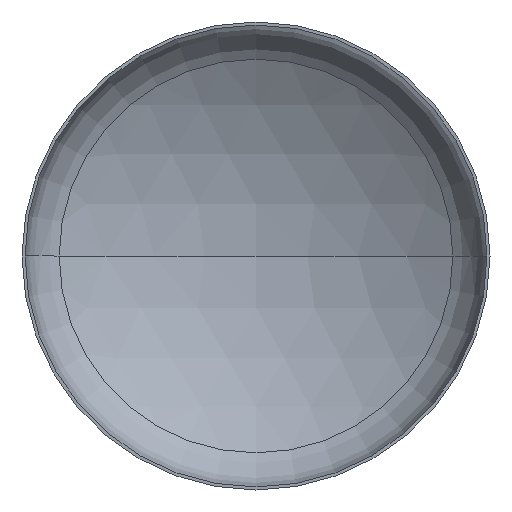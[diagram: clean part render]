
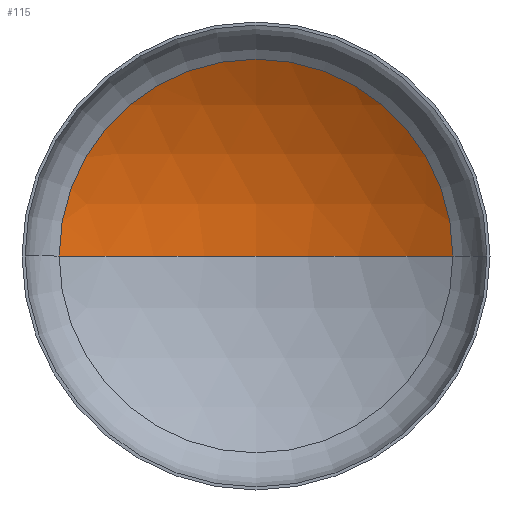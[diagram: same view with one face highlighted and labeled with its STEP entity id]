
A CAD part, front view. The second image highlights one B-rep face of the part: STEP entity #115.
In plain terms, the highlighted spherical face has radius 3200 mm.
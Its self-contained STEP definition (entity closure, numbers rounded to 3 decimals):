
#5 = ORIENTED_EDGE ( 'NONE', *, *, #361, .F. ) ;
#12 = DIRECTION ( 'NONE',  ( 1., 0., 0. ) ) ;
#15 = AXIS2_PLACEMENT_3D ( 'NONE', #51, #329, #250 ) ;
#16 = EDGE_LOOP ( 'NONE', ( #5, #296, #107 ) ) ;
#17 = AXIS2_PLACEMENT_3D ( 'NONE', #119, #64, #135 ) ;
#19 = DIRECTION ( 'NONE',  ( 0., -1., 0. ) ) ;
#51 = CARTESIAN_POINT ( 'NONE',  ( 0., -2113.942, 0. ) ) ;
#58 = VERTEX_POINT ( 'NONE', #258 ) ;
#64 = DIRECTION ( 'NONE',  ( 0., 0., -1. ) ) ;
#79 = VERTEX_POINT ( 'NONE', #269 ) ;
#82 = VERTEX_POINT ( 'NONE', #244 ) ;
#85 = AXIS2_PLACEMENT_3D ( 'NONE', #122, #19, #12 ) ;
#99 = CIRCLE ( 'NONE', #85, 1682.321 ) ;
#107 = ORIENTED_EDGE ( 'NONE', *, *, #161, .T. ) ;
#115 = ADVANCED_FACE ( 'NONE', ( #151 ), #351, .F. ) ;
#118 = AXIS2_PLACEMENT_3D ( 'NONE', #246, #249, #326 ) ;
#119 = CARTESIAN_POINT ( 'NONE',  ( 0., -2113.942, 0. ) ) ;
#122 = CARTESIAN_POINT ( 'NONE',  ( 0., 608.152, 0. ) ) ;
#135 = DIRECTION ( 'NONE',  ( -1., 0., 0. ) ) ;
#151 = FACE_OUTER_BOUND ( 'NONE', #16, .T. ) ;
#161 = EDGE_CURVE ( 'NONE', #58, #82, #99, .T. ) ;
#172 = CIRCLE ( 'NONE', #15, 3200. ) ;
#244 = CARTESIAN_POINT ( 'NONE',  ( -1682.321, 608.152, 0. ) ) ;
#246 = CARTESIAN_POINT ( 'NONE',  ( 0., -2113.942, 0. ) ) ;
#249 = DIRECTION ( 'NONE',  ( 0., 0., -1. ) ) ;
#250 = DIRECTION ( 'NONE',  ( 1., 0., 0. ) ) ;
#258 = CARTESIAN_POINT ( 'NONE',  ( 1682.321, 608.152, 0. ) ) ;
#269 = CARTESIAN_POINT ( 'NONE',  ( 0., 1086.058, 0. ) ) ;
#296 = ORIENTED_EDGE ( 'NONE', *, *, #358, .T. ) ;
#326 = DIRECTION ( 'NONE',  ( -1., 0., 0. ) ) ;
#329 = DIRECTION ( 'NONE',  ( 0., 0., 1. ) ) ;
#351 = SPHERICAL_SURFACE ( 'NONE', #118, 3200. ) ;
#358 = EDGE_CURVE ( 'NONE', #79, #58, #405, .T. ) ;
#361 = EDGE_CURVE ( 'NONE', #79, #82, #172, .T. ) ;
#405 = CIRCLE ( 'NONE', #17, 3200. ) ;
